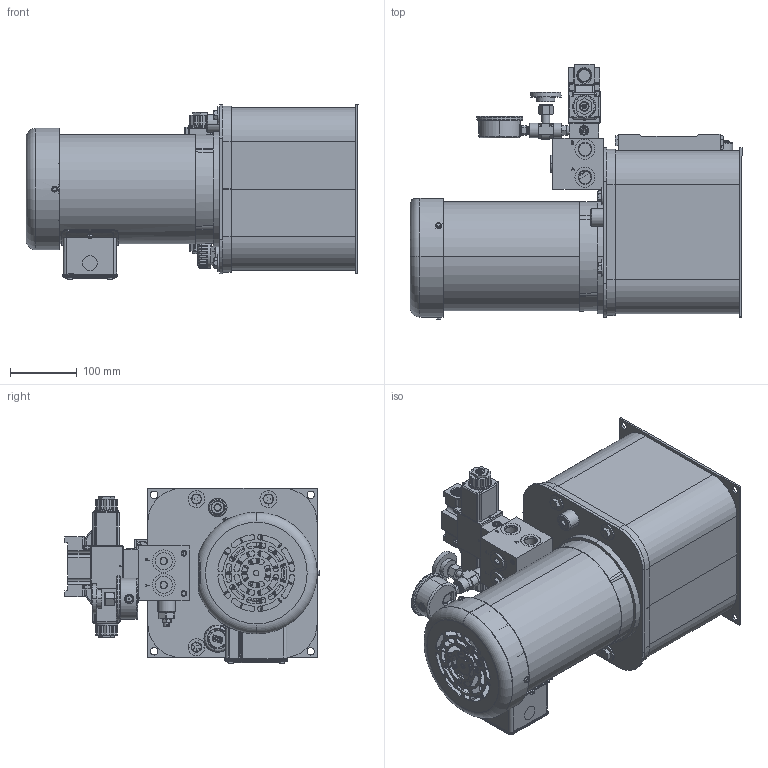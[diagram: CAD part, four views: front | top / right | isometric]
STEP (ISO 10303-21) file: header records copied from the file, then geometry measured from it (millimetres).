
FILE_DESCRIPTION (( 'STEP AP214' ), '1' );
FILE_NAME ('T2V-05-M-P1-XX-059c.STEP', '2021-09-06T15:14:33', ( '' ), ( '' ), 'SwSTEP 2.0', 'SolidWorks 2020', '' );
FILE_SCHEMA (( 'AUTOMOTIVE_DESIGN' ));
Length unit declared in the file: inch
Products named in the file (1): T2V-05-M-P1-XX-059c
Bounding box: 498.34 x 382.69 x 262.78 mm (x, y, z)
Surface area: 915235.1 mm2 (no closed solid volume)
Topology: 0 solids, 136 shells, 1909 faces, 8288 edges, 6305 vertices
Faces by surface type: plane 723, cylinder 653, bspline 199, cone 197, torus 98, sphere 39
Entity records: 146059 total; most frequent: CARTESIAN_POINT 57815, DIRECTION 12346, ORIENTED_EDGE 12005, EDGE_CURVE 8261, VERTEX_POINT 6305, AXIS2_PLACEMENT_3D 4154, VECTOR 4038, LINE 4038
